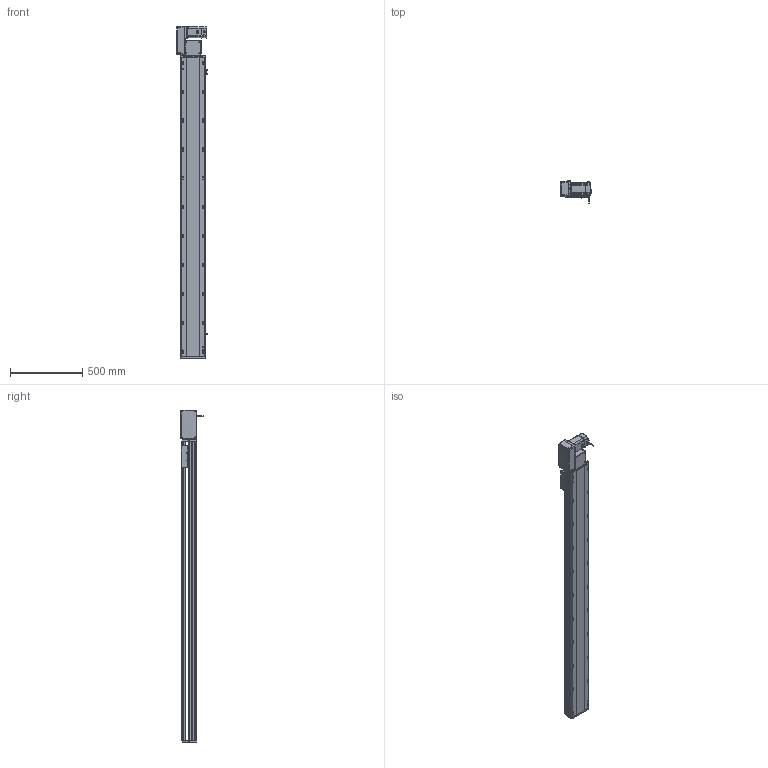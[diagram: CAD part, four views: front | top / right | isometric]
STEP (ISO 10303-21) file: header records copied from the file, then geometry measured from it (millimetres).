
FILE_DESCRIPTION (( 'STEP AP214' ), '1' );
FILE_NAME ('RTB17S-XX-1800-L-M75-C4.STEP', '2025-12-12T00:17:35', ( '' ), ( '' ), 'SwSTEP 2.0', 'SolidWorks 2018', '' );
FILE_SCHEMA (( 'AUTOMOTIVE_DESIGN' ));
Length unit declared in the file: millimetre
Products named in the file (15): RTB17S-L-々湍釱蚾饜-750W^RTB17S-XX-XX-L-M75-C4; RTB22S-GY-017P^RTB17S-L-々湍釱蚾饜-750W_RTB17S-XX-XX-L-M75-C4; RTB17S-L-001-耜醱啣^RTB17S-XX-XX-L-M75-C4; RMP17S-L-014-T20-P75--々湍釱^RTB17S-L-々湍釱蚾饜-750W_RTB17S-XX-XX-L-M75-C4; RTB17-R-011菁釱^RTB17S-XX-XX-L-M75-C4; 750W萇儂^RTB17S-XX-XX-L-M75-C4; RTB17S-賑釱^RTB17S-XX-XX-L-M75-C4; RTB22S-GY-005P^RTB17S-L-々湍釱蚾饜-750W_RTB17S-XX-XX-L-M75-C4; RTB17S-L-007奻裔^RTB17S-XX-XX-L-M75-C4; RTH13-BL-012覜茼え俋离^RTB17S-賑釱_RTB17S-XX-XX-L-M75-C4; EE672^RTB17S-XX-XX-L-M75-C4; RTB22S-GY-008-M75--萇儂啣^RTB17S-L-々湍釱蚾饜-750W_RTB17S-XX-XX-L-M75-C4; RTB22S-GY-018P^RTB17S-L-々湍釱蚾饜-750W_RTB17S-XX-XX-L-M75-C4; RTB17S-L-004-賑釱^RTB17S-賑釱_RTB17S-XX-XX-L-M75-C4; RTB17S-XX-1800-L-M75-C4
Assembly tree (17 placements, depth 3):
  RTB17S-XX-1800-L-M75-C4
    RTB17-R-011菁釱^RTB17S-XX-XX-L-M75-C4
    EE672^RTB17S-XX-XX-L-M75-C4  x3
    RTB17S-L-001-耜醱啣^RTB17S-XX-XX-L-M75-C4
    RTB17S-賑釱^RTB17S-XX-XX-L-M75-C4
      RTB17S-L-004-賑釱^RTB17S-賑釱_RTB17S-XX-XX-L-M75-C4
      RTH13-BL-012覜茼え俋离^RTB17S-賑釱_RTB17S-XX-XX-L-M75-C4
    RTB17S-L-007奻裔^RTB17S-XX-XX-L-M75-C4
    750W萇儂^RTB17S-XX-XX-L-M75-C4
    RTB17S-L-々湍釱蚾饜-750W^RTB17S-XX-XX-L-M75-C4
      RMP17S-L-014-T20-P75--々湍釱^RTB17S-L-々湍釱蚾饜-750W_RTB17S-XX-XX-L-M75-C4
      RTB22S-GY-005P^RTB17S-L-々湍釱蚾饜-750W_RTB17S-XX-XX-L-M75-C4
      RTB22S-GY-017P^RTB17S-L-々湍釱蚾饜-750W_RTB17S-XX-XX-L-M75-C4  x2
      RTB22S-GY-008-M75--萇儂啣^RTB17S-L-々湍釱蚾饜-750W_RTB17S-XX-XX-L-M75-C4
      RTB22S-GY-018P^RTB17S-L-々湍釱蚾饜-750W_RTB17S-XX-XX-L-M75-C4
Bounding box: 210.4 x 152.7 x 2299 mm (x, y, z)
Volume: 17204687.3 mm3; surface area: 3052683.1 mm2
Topology: 17 solids, 17 shells, 2153 faces, 5998 edges, 3878 vertices
Faces by surface type: plane 978, cylinder 759, bspline 294, cone 110, sphere 8, torus 4
Entity records: 61174 total; most frequent: CARTESIAN_POINT 18062, ORIENTED_EDGE 8840, DIRECTION 8222, EDGE_CURVE 4420, AXIS2_PLACEMENT_3D 2898, VERTEX_POINT 2882, LINE 2426, VECTOR 2426
